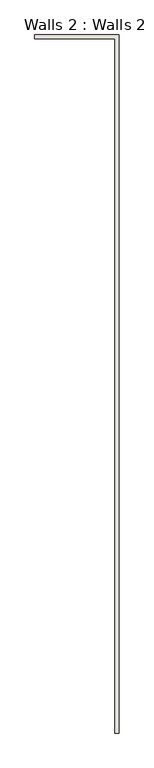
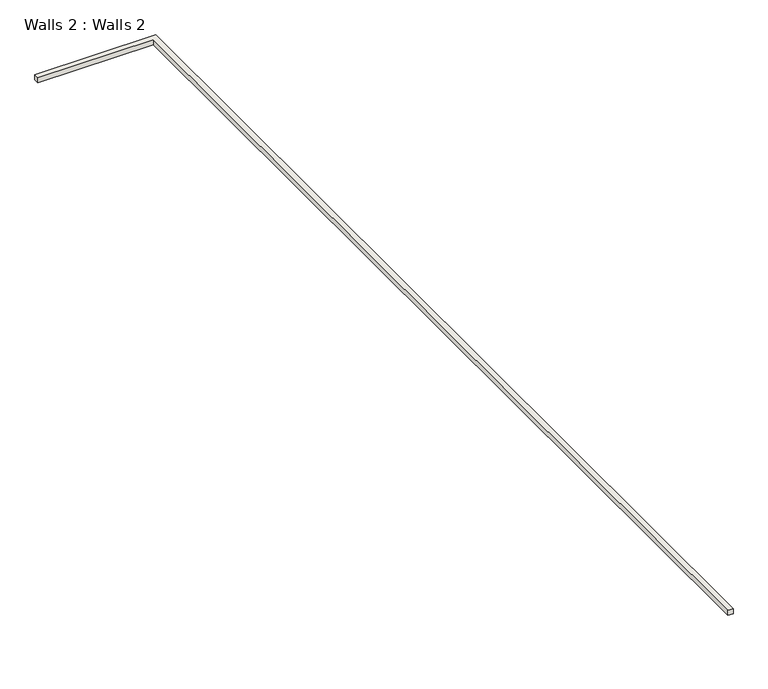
"""IFC4 building model written with IfcOpenShell, lengths in millimetres: wall geometry, Walls 2 : Walls 2."""

from ifc_helpers import new_model, si_unit, frame, origin, place, context, project, spatial, polyline, outline, extrude, source, transform, mapped, element, save


def walls_2_walls_2_ebb16d3f(model_context):
    return source(origin(), model_context, "Body", "SweptSolid", [
        extrude(outline(polyline([(20425.6517773, 13479.7909405), (20425.6517773, 13505.1909405), (21009.8517773, 13505.1909405), (21009.8517773, 8660.1409405), (20984.4517773, 8660.1409405), (20984.4517773, 13479.7909405), (20425.6517773, 13479.7909405)])), frame((0.0, 0.0, -25.4), z_axis=(0.0, 0.0, 1.0), x_axis=(1.0, 0.0, 0.0)), (0.0, 0.0, 1.0), 25.4),
    ])


if __name__ == "__main__":
    model = new_model("IFC4")
    model_context = context("Model", 3, world=origin())
    ifc_project = project(units=[si_unit("LENGTHUNIT", "METRE", prefix="MILLI")], contexts=[model_context])
    site = spatial("IfcSite", under=ifc_project)
    building = spatial("IfcBuilding", under=site)
    placement = place(None, origin())
    walls_2_walls_2_shape = walls_2_walls_2_ebb16d3f(model_context)
    element("IfcWall", 1, ObjectType="Walls 2 : Walls 2", at=placement, inside=building, context=model_context, shape_type="MappedRepresentation", body=[
        mapped(walls_2_walls_2_shape, transform((0.0, 0.0, 0.0), x_axis=(1.0, 0.0, 0.0), y_axis=(0.0, 1.0, 0.0), z_axis=(0.0, 0.0, 1.0))),
    ])
    save(model, "model.ifc")
